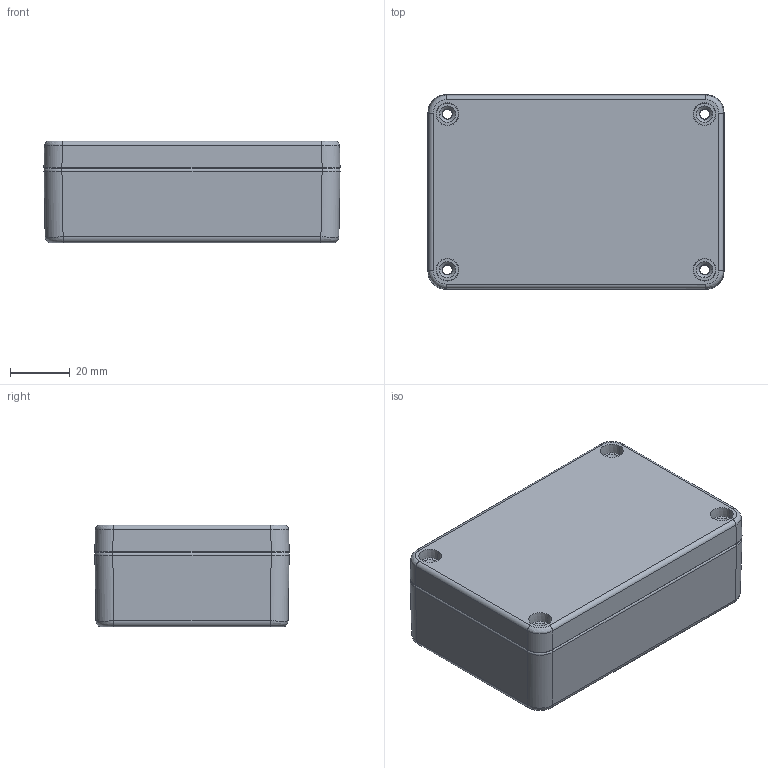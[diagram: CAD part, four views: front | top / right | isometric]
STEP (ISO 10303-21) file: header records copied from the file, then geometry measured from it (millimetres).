
FILE_DESCRIPTION (( 'STEP AP203' ), '1' );
FILE_NAME ('ALU ASSY 986434.STEP', '2024-08-27T07:05:37', ( '' ), ( '' ), 'SwSTEP 2.0', 'SolidWorks 2018', '' );
FILE_SCHEMA (( 'CONFIG_CONTROL_DESIGN' ));
Length unit declared in the file: millimetre
Products named in the file (3): ALU ASSY 986434; ALU BASE 986434; ALU LID 986434
Assembly tree (2 placements, depth 2):
  ALU ASSY 986434
    ALU BASE 986434
    ALU LID 986434
Bounding box: 98.99 x 64.99 x 34 mm (x, y, z)
Volume: 74987.1 mm3; surface area: 48811.6 mm2
Topology: 2 solids, 2 shells, 508 faces, 1213 edges, 750 vertices
Faces by surface type: cylinder 186, plane 155, bspline 102, cone 65
Entity records: 19877 total; most frequent: CARTESIAN_POINT 8506, ORIENTED_EDGE 2418, DIRECTION 2098, EDGE_CURVE 1209, AXIS2_PLACEMENT_3D 770, VERTEX_POINT 750, EDGE_LOOP 573, VECTOR 558
